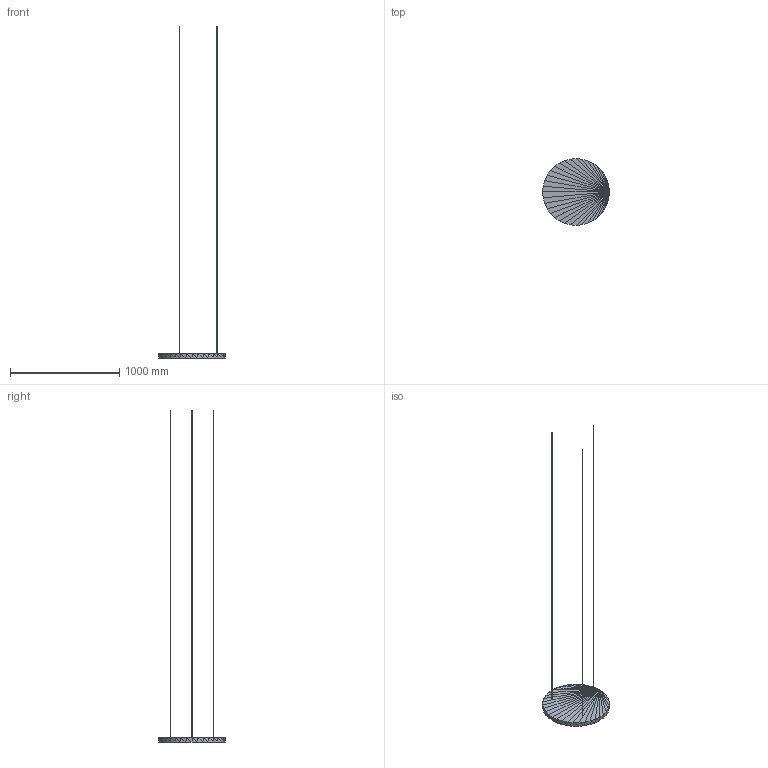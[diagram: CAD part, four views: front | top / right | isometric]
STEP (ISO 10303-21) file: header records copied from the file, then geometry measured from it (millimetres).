
FILE_DESCRIPTION(('ISINAC STEP AP214'),'2;1');
FILE_NAME('ISINAC_CIR.610_40mm_COLGADO','2026-05-03T10:49:19',('ISINAC'),('www.isinac.com'),'ISINAC BIM Generator 1.0','','');
FILE_SCHEMA(('AUTOMOTIVE_DESIGN'));
Length unit declared in the file: millimetre
Products named in the file (1): ISINAC_CIR.610_40mm_COLGADO
Bounding box: 610 x 610 x 3040 mm (x, y, z)
Surface area: 739122.2 mm2 (no closed solid volume)
Topology: 0 solids, 200 shells, 200 faces, 600 edges, 600 vertices
Faces by surface type: plane 200
Entity records: 2213 total; most frequent: CARTESIAN_POINT 800, DIRECTION 400, POLY_LOOP 200, FACE_OUTER_BOUND 200, AXIS2_PLACEMENT_3D 200, PLANE 200, FACE_SURFACE 200, CLOSED_SHELL 1
